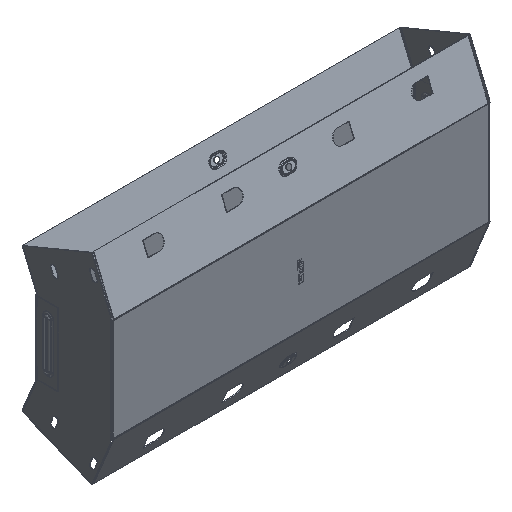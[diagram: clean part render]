
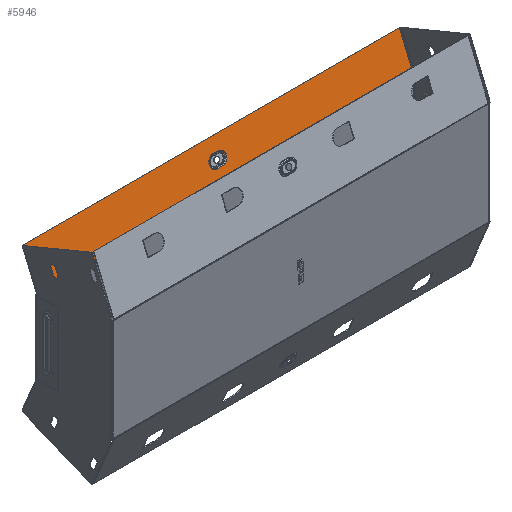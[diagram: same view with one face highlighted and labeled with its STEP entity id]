
A CAD part, isometric view. The second image highlights one B-rep face of the part: STEP entity #5946.
In plain terms, the highlighted planar face has unit normal (0, -0.924, 0.383).
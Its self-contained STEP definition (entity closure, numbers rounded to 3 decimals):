
#3 = ORIENTED_EDGE ( 'NONE', *, *, #1532, .F. ) ;
#505 = VERTEX_POINT ( 'NONE', #13748 ) ;
#833 = CARTESIAN_POINT ( 'NONE',  ( -3.5, 6.303, 65.307 ) ) ;
#1057 = FACE_OUTER_BOUND ( 'NONE', #1624, .T. ) ;
#1240 = FACE_BOUND ( 'NONE', #13619, .T. ) ;
#1532 = EDGE_CURVE ( 'NONE', #6306, #6657, #3541, .T. ) ;
#1624 = EDGE_LOOP ( 'NONE', ( #3892, #6961, #14431, #9170 ) ) ;
#1930 = AXIS2_PLACEMENT_3D ( 'NONE', #12379, #10164, #8842 ) ;
#2219 = DIRECTION ( 'NONE',  ( -1., 0., 0. ) ) ;
#2548 = CIRCLE ( 'NONE', #1930, 7.598 ) ;
#2631 = CARTESIAN_POINT ( 'NONE',  ( -3.5, 6.303, 65.307 ) ) ;
#2774 = VECTOR ( 'NONE', #5420, 1000. ) ;
#3439 = VERTEX_POINT ( 'NONE', #5889 ) ;
#3454 = VERTEX_POINT ( 'NONE', #9586 ) ;
#3502 = PLANE ( 'NONE',  #10895 ) ;
#3541 = CIRCLE ( 'NONE', #14163, 7.598 ) ;
#3572 = EDGE_CURVE ( 'NONE', #505, #6306, #14899, .T. ) ;
#3649 = EDGE_CURVE ( 'NONE', #11236, #5272, #11275, .T. ) ;
#3892 = ORIENTED_EDGE ( 'NONE', *, *, #3649, .T. ) ;
#4409 = CARTESIAN_POINT ( 'NONE',  ( -249., -0.663, 48.49 ) ) ;
#5085 = EDGE_CURVE ( 'NONE', #3439, #11236, #7452, .T. ) ;
#5272 = VERTEX_POINT ( 'NONE', #4409 ) ;
#5420 = DIRECTION ( 'NONE',  ( 0., -0.383, -0.924 ) ) ;
#5493 = DIRECTION ( 'NONE',  ( 0., -0.383, -0.924 ) ) ;
#5604 = EDGE_CURVE ( 'NONE', #3454, #505, #2548, .T. ) ;
#5889 = CARTESIAN_POINT ( 'NONE',  ( 249., 18.395, 94.5 ) ) ;
#5942 = EDGE_CURVE ( 'NONE', #3439, #12755, #13024, .T. ) ;
#5946 = ADVANCED_FACE ( 'NONE', ( #1240, #1057 ), #3502, .F. ) ;
#6164 = VECTOR ( 'NONE', #12233, 1000. ) ;
#6306 = VERTEX_POINT ( 'NONE', #8235 ) ;
#6503 = ORIENTED_EDGE ( 'NONE', *, *, #5604, .F. ) ;
#6573 = DIRECTION ( 'NONE',  ( 0., -0.924, 0.383 ) ) ;
#6657 = VERTEX_POINT ( 'NONE', #833 ) ;
#6961 = ORIENTED_EDGE ( 'NONE', *, *, #7631, .F. ) ;
#7017 = DIRECTION ( 'NONE',  ( 0., 0.383, 0.924 ) ) ;
#7162 = CARTESIAN_POINT ( 'NONE',  ( 249., -0.739, 48.306 ) ) ;
#7372 = LINE ( 'NONE', #2631, #12868 ) ;
#7452 = LINE ( 'NONE', #14331, #6164 ) ;
#7631 = EDGE_CURVE ( 'NONE', #12755, #5272, #12632, .T. ) ;
#7688 = VECTOR ( 'NONE', #11651, 1000. ) ;
#8035 = ORIENTED_EDGE ( 'NONE', *, *, #3572, .F. ) ;
#8235 = CARTESIAN_POINT ( 'NONE',  ( -3.5, 12.118, 79.347 ) ) ;
#8842 = DIRECTION ( 'NONE',  ( 0., -0.383, -0.924 ) ) ;
#9170 = ORIENTED_EDGE ( 'NONE', *, *, #5085, .T. ) ;
#9531 = CARTESIAN_POINT ( 'NONE',  ( -249., 18.395, 94.5 ) ) ;
#9586 = CARTESIAN_POINT ( 'NONE',  ( 3.5, 6.303, 65.307 ) ) ;
#10164 = DIRECTION ( 'NONE',  ( 0., -0.924, 0.383 ) ) ;
#10292 = CARTESIAN_POINT ( 'NONE',  ( 249., -0.663, 48.49 ) ) ;
#10464 = CARTESIAN_POINT ( 'NONE',  ( 249., -0.739, 48.306 ) ) ;
#10895 = AXIS2_PLACEMENT_3D ( 'NONE', #7162, #14094, #7017 ) ;
#11023 = DIRECTION ( 'NONE',  ( 1., 0., 0. ) ) ;
#11236 = VERTEX_POINT ( 'NONE', #9531 ) ;
#11275 = LINE ( 'NONE', #11635, #2774 ) ;
#11635 = CARTESIAN_POINT ( 'NONE',  ( -249., -0.739, 48.306 ) ) ;
#11651 = DIRECTION ( 'NONE',  ( 0., -0.383, -0.924 ) ) ;
#11916 = ORIENTED_EDGE ( 'NONE', *, *, #13357, .F. ) ;
#12233 = DIRECTION ( 'NONE',  ( -1., 0., 0. ) ) ;
#12379 = CARTESIAN_POINT ( 'NONE',  ( 3.5, 9.211, 72.327 ) ) ;
#12632 = LINE ( 'NONE', #10292, #12803 ) ;
#12755 = VERTEX_POINT ( 'NONE', #12807 ) ;
#12803 = VECTOR ( 'NONE', #2219, 1000. ) ;
#12807 = CARTESIAN_POINT ( 'NONE',  ( 249., -0.663, 48.49 ) ) ;
#12868 = VECTOR ( 'NONE', #11023, 1000. ) ;
#13024 = LINE ( 'NONE', #10464, #7688 ) ;
#13267 = VECTOR ( 'NONE', #13386, 1000. ) ;
#13357 = EDGE_CURVE ( 'NONE', #6657, #3454, #7372, .T. ) ;
#13386 = DIRECTION ( 'NONE',  ( -1., 0., 0. ) ) ;
#13619 = EDGE_LOOP ( 'NONE', ( #6503, #11916, #3, #8035 ) ) ;
#13748 = CARTESIAN_POINT ( 'NONE',  ( 3.5, 12.118, 79.347 ) ) ;
#14094 = DIRECTION ( 'NONE',  ( 0., 0.924, -0.383 ) ) ;
#14163 = AXIS2_PLACEMENT_3D ( 'NONE', #14791, #6573, #5493 ) ;
#14331 = CARTESIAN_POINT ( 'NONE',  ( 249., 18.395, 94.5 ) ) ;
#14431 = ORIENTED_EDGE ( 'NONE', *, *, #5942, .F. ) ;
#14495 = CARTESIAN_POINT ( 'NONE',  ( -3.5, 12.118, 79.347 ) ) ;
#14791 = CARTESIAN_POINT ( 'NONE',  ( -3.5, 9.211, 72.327 ) ) ;
#14899 = LINE ( 'NONE', #14495, #13267 ) ;
